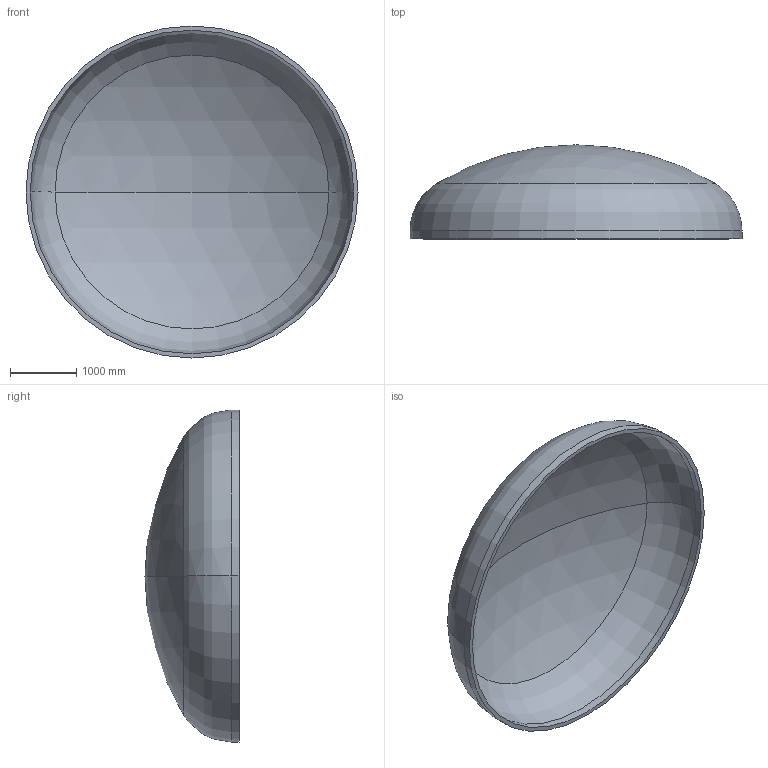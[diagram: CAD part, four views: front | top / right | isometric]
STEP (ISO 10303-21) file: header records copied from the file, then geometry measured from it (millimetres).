
FILE_DESCRIPTION (( 'STEP AP203' ), '1' );
FILE_NAME ('DIN 28013 Korbbogenform_-_Boden DIN 28013 - 5000 x 120 - I - s=64.step', '2016-07-02T00:41:08', ( '' ), ( '' ), 'SwSTEP 2.0', 'SolidWorks 2013', '' );
FILE_SCHEMA (( 'CONFIG_CONTROL_DESIGN' ));
Length unit declared in the file: millimetre
Products named in the file (1): DIN 28013 Korbbogenform_-_Boden DIN 28013 - 5000 x 120 - I - s=64
Bounding box: 5000 x 1416.81 x 5000 mm (x, y, z)
Volume: 1830317543.3 mm3; surface area: 58198422.3 mm2
Topology: 1 solids, 1 shells, 13 faces, 24 edges, 14 vertices
Faces by surface type: torus 4, cylinder 4, sphere 4, plane 1
Entity records: 407 total; most frequent: DIRECTION 72, CARTESIAN_POINT 52, ORIENTED_EDGE 48, AXIS2_PLACEMENT_3D 34, EDGE_CURVE 24, CIRCLE 20, VERTEX_POINT 14, EDGE_LOOP 14
